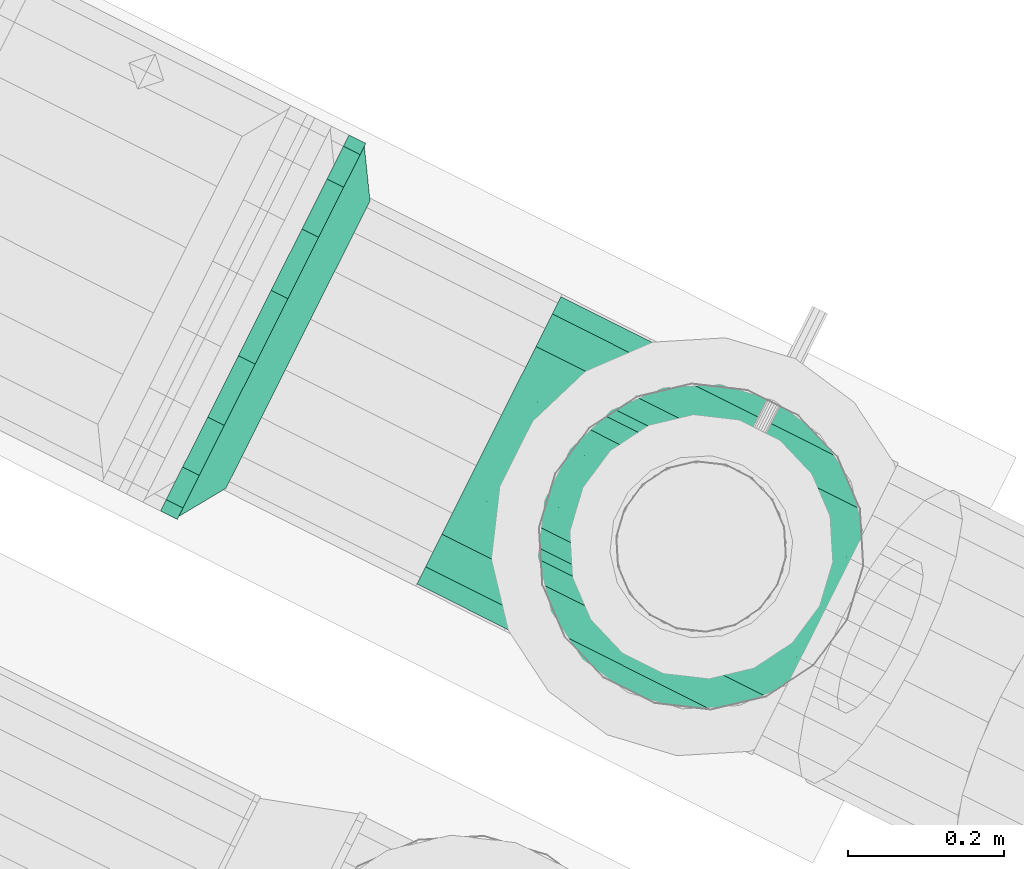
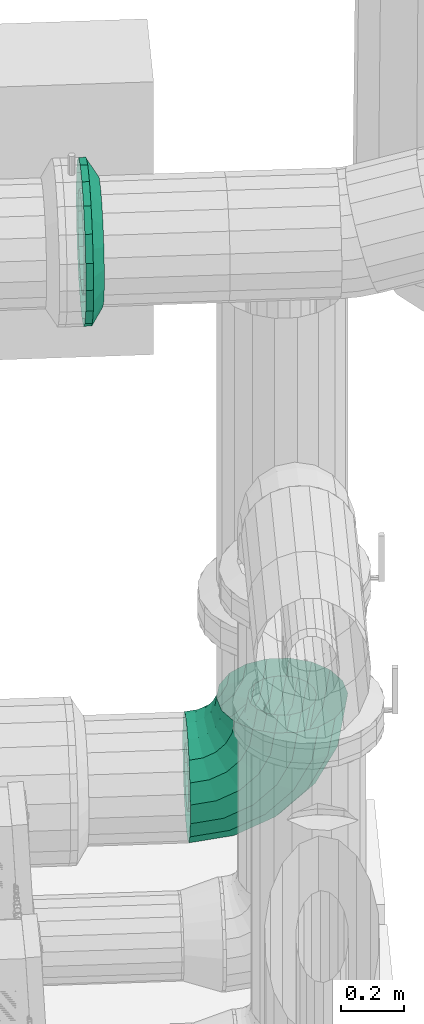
# One storey, part 140 of 152: 1 flow fitting, 1 flow segment.
"""IFC2X3 building model written with IfcOpenShell, lengths in metres."""

from ifc_helpers import new_model, si_unit, derived_unit, direction, frame, origin, place, context, subcontext, project, spatial, face_set, surface_model, source, transform, mapped, material, type_object, type_shapes, element, save


model = new_model("IFC2X3")

# Units and contexts
model_context = context("Model", 3, precision=5.2338327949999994e-05, world=origin(), true_north=direction((0.0, 1.0)))
body_context = subcontext(model_context, "Body", "Model", "MODEL_VIEW")
ifc_project = project(units=[si_unit("LENGTHUNIT", "METRE"), si_unit("AREAUNIT", "SQUARE_METRE"), si_unit("VOLUMEUNIT", "CUBIC_METRE"), si_unit("MASSUNIT", "GRAM", prefix="KILO"), si_unit("PLANEANGLEUNIT", "RADIAN"), derived_unit("THERMALTRANSMITTANCEUNIT", [(si_unit("MASSUNIT", "GRAM", prefix="KILO"), 1), (si_unit("THERMODYNAMICTEMPERATUREUNIT", "KELVIN"), -1), (si_unit("TIMEUNIT", "SECOND"), -3)])], contexts=[model_context])

# Site, building, storey
site_placement = place(None, frame((0.0, 0.0, 0.0), z_axis=(0.0, 0.0, 1.0), x_axis=(0.8939966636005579, -0.4480736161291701, 0.0)))
site = spatial("IfcSite", under=ifc_project, at=site_placement, Name="Default", CompositionType="ELEMENT")
building_placement = place(site_placement, origin())
building = spatial("IfcBuilding", under=site, at=building_placement, CompositionType="ELEMENT")
storey_placement = place(building_placement, frame((0.0, 0.0, 2.7499999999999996)))
storey = spatial("IfcBuildingStorey", under=building, at=storey_placement, Name="1. Obergeschoss", CompositionType="ELEMENT", Elevation=2.7499999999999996)

# Flow segment
ifc_material = material(Name="IfcSurfaceStyle #1741")
distribution_element_type_1 = type_object("IfcDistributionElementType", Name="Rohrbogen 5713:Rohrbogen 5713", material=ifc_material)
shared_shape_1 = source(origin(), body_context, "Body", "SurfaceModel", [
    surface_model("IfcFaceBasedSurfaceModel", [(11.420814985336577, 8.012208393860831, 3.3503200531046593), (11.420814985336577, 8.04967670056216, 3.3569267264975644), (11.546876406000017, 8.04967670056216, 3.376892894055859), (11.54891798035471, 8.012208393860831, 3.3706095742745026), (11.660598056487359, 8.049676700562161, 3.434836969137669), (11.664481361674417, 8.012208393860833, 3.429492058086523), (11.750848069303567, 8.049676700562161, 3.525086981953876), (11.756192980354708, 8.012208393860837, 3.521203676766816), (11.808792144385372, 8.049676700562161, 3.6388086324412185), (11.815075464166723, 8.012208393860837, 3.6367670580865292), (11.82875831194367, 8.049676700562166, 3.764870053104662), (11.835364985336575, 8.012208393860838, 3.764870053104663), (11.420814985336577, 8.082625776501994, 3.3759498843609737), (11.540997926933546, 8.082625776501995, 3.3949849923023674), (11.649416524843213, 8.082625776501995, 3.4502270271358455), (11.735458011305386, 8.082625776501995, 3.5362685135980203), (11.790700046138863, 8.082625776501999, 3.6446871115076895), (11.809735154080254, 8.082625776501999, 3.764870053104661), (11.420814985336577, 8.107081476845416, 3.4050950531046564), (11.531991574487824, 8.10708147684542, 3.422703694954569), (11.6322854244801, 8.10708147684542, 3.473805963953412), (11.71187907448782, 8.107081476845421, 3.553399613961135), (11.762981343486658, 8.107081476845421, 3.653693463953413), (11.780589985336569, 8.107081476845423, 3.7648700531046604), (11.420814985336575, 8.12009408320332, 3.4408468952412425), (11.520943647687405, 8.120094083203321, 3.456705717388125), (11.611271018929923, 8.120094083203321, 3.50272981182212), (11.68295522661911, 8.120094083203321, 3.574414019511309), (11.728979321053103, 8.120094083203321, 3.664741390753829), (11.744838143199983, 8.120094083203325, 3.7648700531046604), (11.420814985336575, 8.120094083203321, 3.4788932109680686), (11.509186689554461, 8.120094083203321, 3.4928899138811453), (11.588907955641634, 8.120094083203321, 3.533509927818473), (11.652175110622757, 8.120094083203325, 3.5967770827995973), (11.692795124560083, 8.120094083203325, 3.676498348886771), (11.706791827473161, 8.120094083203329, 3.764870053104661), (11.420814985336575, 8.107081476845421, 3.5146450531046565), (11.498138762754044, 8.107081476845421, 3.526891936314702), (11.567893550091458, 8.107081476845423, 3.5624337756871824), (11.623251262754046, 8.107081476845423, 3.6177914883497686), (11.658793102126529, 8.107081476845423, 3.687546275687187), (11.671039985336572, 8.107081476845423, 3.7648700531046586), (11.420814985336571, 8.082625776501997, 3.543790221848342), (11.48913241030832, 8.082625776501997, 3.5546106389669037), (11.550762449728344, 8.082625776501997, 3.586012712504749), (11.599672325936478, 8.082625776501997, 3.634922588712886), (11.631074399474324, 8.082625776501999, 3.69655262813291), (11.641894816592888, 8.082625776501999, 3.7648700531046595), (11.420814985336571, 8.049676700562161, 3.5628133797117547), (11.483253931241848, 8.049676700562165, 3.5727027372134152), (11.5395809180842, 8.049676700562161, 3.601402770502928), (11.584282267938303, 8.049676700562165, 3.646104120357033), (11.612982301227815, 8.049676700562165, 3.702431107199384), (11.622871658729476, 8.049676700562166, 3.7648700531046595), (11.420814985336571, 8.012208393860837, 3.569420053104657), (11.481212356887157, 8.012208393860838, 3.5789860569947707), (11.535697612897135, 8.012208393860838, 3.606747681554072), (11.578937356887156, 8.01220839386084, 3.649987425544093), (11.606698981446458, 8.012208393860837, 3.7044726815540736), (11.616264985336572, 8.01220839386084, 3.7648700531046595), (11.42081498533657, 7.974740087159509, 3.5628133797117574), (11.483253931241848, 7.974740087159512, 3.5727027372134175), (11.539580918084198, 7.974740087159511, 3.6014027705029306), (11.5842822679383, 7.974740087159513, 3.646104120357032), (11.612982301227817, 7.974740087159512, 3.7024311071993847), (11.62287165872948, 7.974740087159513, 3.76487005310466), (11.420814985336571, 7.941791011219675, 3.5437902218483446), (11.48913241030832, 7.941791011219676, 3.554610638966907), (11.550762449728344, 7.941791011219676, 3.5860127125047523), (11.599672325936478, 7.941791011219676, 3.63492258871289), (11.631074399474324, 7.94179101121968, 3.6965526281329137), (11.641894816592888, 7.94179101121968, 3.764870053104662), (11.420814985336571, 7.917335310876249, 3.514645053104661), (11.498138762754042, 7.917335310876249, 3.5268919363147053), (11.567893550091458, 7.91733531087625, 3.562433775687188), (11.623251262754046, 7.91733531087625, 3.617791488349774), (11.658793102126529, 7.917335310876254, 3.68754627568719), (11.671039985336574, 7.917335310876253, 3.7648700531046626), (11.420814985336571, 7.904322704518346, 3.478893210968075), (11.509186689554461, 7.904322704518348, 3.4928899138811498), (11.588907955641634, 7.904322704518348, 3.5335099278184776), (11.652175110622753, 7.904322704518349, 3.5967770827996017), (11.692795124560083, 7.904322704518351, 3.6764983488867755), (11.706791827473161, 7.904322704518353, 3.7648700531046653), (11.420814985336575, 7.904322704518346, 3.4408468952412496), (11.520943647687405, 7.904322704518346, 3.456705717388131), (11.611271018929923, 7.904322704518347, 3.502729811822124), (11.68295522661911, 7.904322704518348, 3.5744140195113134), (11.728979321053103, 7.904322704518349, 3.6647413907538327), (11.744838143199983, 7.904322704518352, 3.7648700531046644), (11.420814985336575, 7.917335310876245, 3.405095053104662), (11.531991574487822, 7.917335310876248, 3.422703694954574), (11.632285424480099, 7.917335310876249, 3.4738059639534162), (11.71187907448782, 7.917335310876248, 3.5533996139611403), (11.762981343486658, 7.91733531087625, 3.6536934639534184), (11.780589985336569, 7.917335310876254, 3.764870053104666), (11.420814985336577, 7.941791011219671, 3.375949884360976), (11.540997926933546, 7.941791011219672, 3.39498499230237), (11.649416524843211, 7.941791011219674, 3.4502270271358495), (11.735458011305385, 7.941791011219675, 3.5362685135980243), (11.790700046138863, 7.941791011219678, 3.6446871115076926), (11.809735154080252, 7.94179101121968, 3.7648700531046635), (11.420814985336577, 7.974740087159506, 3.3569267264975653), (11.546876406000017, 7.974740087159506, 3.3768928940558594), (11.660598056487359, 7.974740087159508, 3.4348369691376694), (11.750848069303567, 7.9747400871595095, 3.525086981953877), (11.808792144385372, 7.974740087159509, 3.638808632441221), (11.82875831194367, 7.974740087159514, 3.7648700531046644), (11.420814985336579, 8.012208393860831, 3.250320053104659), (11.420814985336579, 8.083878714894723, 3.26295746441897), (11.575914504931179, 8.083878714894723, 3.287522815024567), (11.579819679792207, 8.012208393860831, 3.2755039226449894), (11.71583180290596, 8.083878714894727, 3.3588142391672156), (11.723259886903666, 8.012208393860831, 3.348590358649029), (11.826870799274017, 8.083878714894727, 3.469853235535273), (11.837094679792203, 8.012208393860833, 3.4624251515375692), (11.898162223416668, 8.08387871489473, 3.609770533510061), (11.910181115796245, 8.012208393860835, 3.6058653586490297), (11.92272757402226, 8.083878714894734, 3.7648700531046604), (11.93536498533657, 8.01220839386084, 3.764870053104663), (11.420814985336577, 8.146904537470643, 3.299345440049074), (11.56467000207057, 8.146904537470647, 3.322129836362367), (11.694443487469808, 8.146904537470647, 3.3882527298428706), (11.797432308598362, 8.146904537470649, 3.4912415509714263), (11.863555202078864, 8.146904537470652, 3.6210150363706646), (11.886339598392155, 8.146904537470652, 3.7648700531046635), (11.420814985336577, 8.193684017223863, 3.3550950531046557), (11.547442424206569, 8.193684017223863, 3.3751508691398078), (11.661674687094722, 8.193684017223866, 3.433355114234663), (11.752329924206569, 8.193684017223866, 3.5240103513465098), (11.81053416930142, 8.193684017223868, 3.638242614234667), (11.830589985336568, 8.193684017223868, 3.7648700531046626), (11.420814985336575, 8.218574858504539, 3.423482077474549), (11.526309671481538, 8.21857485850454, 3.440190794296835), (11.621477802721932, 8.218574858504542, 3.4886813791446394), (11.69700365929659, 8.218574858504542, 3.564207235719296), (11.745494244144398, 8.218574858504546, 3.659375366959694), (11.762202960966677, 8.21857485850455, 3.7648700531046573), (11.420814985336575, 8.218574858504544, 3.4962580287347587), (11.50382066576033, 8.218574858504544, 3.5094048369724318), (11.578701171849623, 8.218574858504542, 3.5475583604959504), (11.638126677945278, 8.218574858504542, 3.606983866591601), (11.676280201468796, 8.218574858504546, 3.6818643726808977), (11.689427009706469, 8.218574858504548, 3.7648700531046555), (11.420814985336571, 8.193684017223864, 3.5646450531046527), (11.482687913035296, 8.193684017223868, 3.574444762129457), (11.538504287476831, 8.193684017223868, 3.6028846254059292), (11.582800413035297, 8.193684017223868, 3.6471807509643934), (11.611240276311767, 8.193684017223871, 3.7029971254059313), (11.62103998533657, 8.193684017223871, 3.7648700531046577), (11.42081498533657, 8.146904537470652, 3.62039466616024), (11.465460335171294, 8.146904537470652, 3.627465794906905), (11.505735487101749, 8.14690453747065, 3.647987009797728), (11.5376980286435, 8.146904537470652, 3.67994955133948), (11.558219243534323, 8.146904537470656, 3.720224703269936), (11.565290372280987, 8.146904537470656, 3.7648700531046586), (11.42081498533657, 8.08387871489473, 3.6567826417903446), (11.454215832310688, 8.083878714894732, 3.662072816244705), (11.484347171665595, 8.083878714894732, 3.677425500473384), (11.508259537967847, 8.083878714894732, 3.7013378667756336), (11.52361222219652, 8.083878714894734, 3.731469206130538), (11.528902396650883, 8.083878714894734, 3.764870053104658), (11.42081498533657, 8.012208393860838, 3.669420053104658), (11.45031065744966, 8.01220839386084, 3.674091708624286), (11.476919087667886, 8.012208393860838, 3.68764938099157), (11.498035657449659, 8.01220839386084, 3.70876595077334), (11.511593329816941, 8.01220839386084, 3.7353743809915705), (11.51626498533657, 8.01220839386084, 3.7648700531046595), (11.42081498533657, 7.940538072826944, 3.6567826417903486), (11.454215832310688, 7.940538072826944, 3.662072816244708), (11.484347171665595, 7.9405380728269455, 3.6774255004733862), (11.508259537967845, 7.940538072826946, 3.701337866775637), (11.52361222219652, 7.940538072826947, 3.7314692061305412), (11.528902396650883, 7.940538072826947, 3.764870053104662), (11.42081498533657, 7.877512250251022, 3.620394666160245), (11.465460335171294, 7.877512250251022, 3.6274657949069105), (11.505735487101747, 7.877512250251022, 3.647987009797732), (11.5376980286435, 7.877512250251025, 3.6799495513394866), (11.558219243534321, 7.8775122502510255, 3.7202247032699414), (11.565290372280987, 7.8775122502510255, 3.7648700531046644), (11.42081498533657, 7.830732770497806, 3.5646450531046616), (11.482687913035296, 7.830732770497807, 3.574444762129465), (11.538504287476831, 7.830732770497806, 3.602884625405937), (11.582800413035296, 7.830732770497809, 3.6471807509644), (11.611240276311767, 7.830732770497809, 3.702997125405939), (11.621039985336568, 7.83073277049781, 3.7648700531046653), (11.420814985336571, 7.805841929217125, 3.496258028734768), (11.503820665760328, 7.805841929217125, 3.50940483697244), (11.578701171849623, 7.805841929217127, 3.54755836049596), (11.638126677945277, 7.805841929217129, 3.60698386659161), (11.676280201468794, 7.80584192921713, 3.6818643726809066), (11.689427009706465, 7.805841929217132, 3.764870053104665), (11.420814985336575, 7.805841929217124, 3.423482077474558), (11.526309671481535, 7.805841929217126, 3.440190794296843), (11.621477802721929, 7.805841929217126, 3.4886813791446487), (11.697003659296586, 7.805841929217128, 3.5642072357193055), (11.745494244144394, 7.80584192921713, 3.6593753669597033), (11.762202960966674, 7.805841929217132, 3.7648700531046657), (11.420814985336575, 7.830732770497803, 3.3550950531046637), (11.547442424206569, 7.830732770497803, 3.375150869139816), (11.66167468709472, 7.8307327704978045, 3.4333551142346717), (11.752329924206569, 7.830732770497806, 3.5240103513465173), (11.810534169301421, 7.830732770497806, 3.6382426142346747), (11.830589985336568, 7.83073277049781, 3.7648700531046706), (11.420814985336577, 7.877512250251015, 3.2993454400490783), (11.56467000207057, 7.877512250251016, 3.322129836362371), (11.694443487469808, 7.8775122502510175, 3.3882527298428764), (11.797432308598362, 7.877512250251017, 3.491241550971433), (11.863555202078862, 7.877512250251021, 3.62101503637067), (11.886339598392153, 7.877512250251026, 3.7648700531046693), (11.420814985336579, 7.940538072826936, 3.262957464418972), (11.575914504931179, 7.940538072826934, 3.287522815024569), (11.71583180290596, 7.940538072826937, 3.358814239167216), (11.82687079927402, 7.940538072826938, 3.4698532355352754), (11.898162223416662, 7.940538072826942, 3.609770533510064), (11.92272757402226, 7.940538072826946, 3.7648700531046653)], [face_set([[[0, 1, 2, 3]], [[3, 2, 4, 5]], [[5, 4, 6, 7]], [[7, 6, 8, 9]], [[9, 8, 10, 11]], [[1, 12, 13, 2]], [[2, 13, 14, 4]], [[4, 14, 15, 6]], [[6, 15, 16, 8]], [[8, 16, 17, 10]], [[12, 18, 19, 13]], [[13, 19, 20, 14]], [[14, 20, 21, 15]], [[15, 21, 22, 16]], [[16, 22, 23, 17]], [[18, 24, 25, 19]], [[19, 25, 26, 20]], [[20, 26, 27, 21]], [[21, 27, 28, 22]], [[22, 28, 29, 23]], [[24, 30, 31, 25]], [[25, 31, 32, 26]], [[26, 32, 33, 27]], [[27, 33, 34, 28]], [[28, 34, 35, 29]], [[30, 36, 37, 31]], [[31, 37, 38, 32]], [[32, 38, 39, 33]], [[33, 39, 40, 34]], [[34, 40, 41, 35]], [[36, 42, 43, 37]], [[37, 43, 44, 38]], [[38, 44, 45, 39]], [[39, 45, 46, 40]], [[40, 46, 47, 41]], [[42, 48, 49, 43]], [[43, 49, 50, 44]], [[44, 50, 51, 45]], [[45, 51, 52, 46]], [[46, 52, 53, 47]], [[48, 54, 55, 49]], [[49, 55, 56, 50]], [[50, 56, 57, 51]], [[51, 57, 58, 52]], [[52, 58, 59, 53]], [[54, 60, 61, 55]], [[55, 61, 62, 56]], [[56, 62, 63, 57]], [[57, 63, 64, 58]], [[58, 64, 65, 59]], [[60, 66, 67, 61]], [[61, 67, 68, 62]], [[62, 68, 69, 63]], [[63, 69, 70, 64]], [[64, 70, 71, 65]], [[66, 72, 73, 67]], [[67, 73, 74, 68]], [[68, 74, 75, 69]], [[69, 75, 76, 70]], [[70, 76, 77, 71]], [[72, 78, 79, 73]], [[73, 79, 80, 74]], [[74, 80, 81, 75]], [[75, 81, 82, 76]], [[76, 82, 83, 77]], [[78, 84, 85, 79]], [[79, 85, 86, 80]], [[80, 86, 87, 81]], [[81, 87, 88, 82]], [[82, 88, 89, 83]], [[84, 90, 91, 85]], [[85, 91, 92, 86]], [[86, 92, 93, 87]], [[87, 93, 94, 88]], [[88, 94, 95, 89]], [[90, 96, 97, 91]], [[91, 97, 98, 92]], [[92, 98, 99, 93]], [[93, 99, 100, 94]], [[94, 100, 101, 95]], [[96, 102, 103, 97]], [[97, 103, 104, 98]], [[98, 104, 105, 99]], [[99, 105, 106, 100]], [[100, 106, 107, 101]], [[102, 0, 3, 103]], [[103, 3, 5, 104]], [[104, 5, 7, 105]], [[105, 7, 9, 106]], [[106, 9, 11, 107]], [[108, 109, 110, 111]], [[111, 110, 112, 113]], [[113, 112, 114, 115]], [[115, 114, 116, 117]], [[117, 116, 118, 119]], [[109, 120, 121, 110]], [[110, 121, 122, 112]], [[112, 122, 123, 114]], [[114, 123, 124, 116]], [[116, 124, 125, 118]], [[120, 126, 127, 121]], [[121, 127, 128, 122]], [[122, 128, 129, 123]], [[123, 129, 130, 124]], [[124, 130, 131, 125]], [[126, 132, 133, 127]], [[127, 133, 134, 128]], [[128, 134, 135, 129]], [[129, 135, 136, 130]], [[130, 136, 137, 131]], [[132, 138, 139, 133]], [[133, 139, 140, 134]], [[134, 140, 141, 135]], [[135, 141, 142, 136]], [[136, 142, 143, 137]], [[138, 144, 145, 139]], [[139, 145, 146, 140]], [[140, 146, 147, 141]], [[141, 147, 148, 142]], [[142, 148, 149, 143]], [[144, 150, 151, 145]], [[145, 151, 152, 146]], [[146, 152, 153, 147]], [[147, 153, 154, 148]], [[148, 154, 155, 149]], [[150, 156, 157, 151]], [[151, 157, 158, 152]], [[152, 158, 159, 153]], [[153, 159, 160, 154]], [[154, 160, 161, 155]], [[156, 162, 163, 157]], [[157, 163, 164, 158]], [[158, 164, 165, 159]], [[159, 165, 166, 160]], [[160, 166, 167, 161]], [[162, 168, 169, 163]], [[163, 169, 170, 164]], [[164, 170, 171, 165]], [[165, 171, 172, 166]], [[166, 172, 173, 167]], [[168, 174, 175, 169]], [[169, 175, 176, 170]], [[170, 176, 177, 171]], [[171, 177, 178, 172]], [[172, 178, 179, 173]], [[174, 180, 181, 175]], [[175, 181, 182, 176]], [[176, 182, 183, 177]], [[177, 183, 184, 178]], [[178, 184, 185, 179]], [[180, 186, 187, 181]], [[181, 187, 188, 182]], [[182, 188, 189, 183]], [[183, 189, 190, 184]], [[184, 190, 191, 185]], [[186, 192, 193, 187]], [[187, 193, 194, 188]], [[188, 194, 195, 189]], [[189, 195, 196, 190]], [[190, 196, 197, 191]], [[192, 198, 199, 193]], [[193, 199, 200, 194]], [[194, 200, 201, 195]], [[195, 201, 202, 196]], [[196, 202, 203, 197]], [[198, 204, 205, 199]], [[199, 205, 206, 200]], [[200, 206, 207, 201]], [[201, 207, 208, 202]], [[202, 208, 209, 203]], [[204, 210, 211, 205]], [[205, 211, 212, 206]], [[206, 212, 213, 207]], [[207, 213, 214, 208]], [[208, 214, 215, 209]], [[210, 108, 111, 211]], [[211, 111, 113, 212]], [[212, 113, 115, 213]], [[213, 115, 117, 214]], [[214, 117, 119, 215]]])]),
])
type_shapes(distribution_element_type_1, [shared_shape_1])
flow_segment_placement = place(storey_placement, frame((0.0, 0.0, -2.7499999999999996)))
element("IfcFlowSegment", 1, at=flow_segment_placement, inside=storey, type_object=distribution_element_type_1, material=ifc_material, Name="Rohrbogen", ObjectType="Rohrbogen", context=body_context, shape_type="MappedRepresentation", body=[
    mapped(shared_shape_1, transform((0.0, 0.0, 0.0), scale=1.0)),
])

# Flow fitting
distribution_element_type_2 = type_object("IfcDistributionElementType", Name="Flansch 5742:Flansch 5742", material=ifc_material)
shared_shape_2 = source(origin(), body_context, "Body", "SurfaceModel", [
    surface_model("IfcFaceBasedSurfaceModel", [(11.146653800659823, 8.01220839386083, 5.444406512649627), (11.146653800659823, 7.974740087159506, 5.4510131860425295), (11.108653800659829, 7.972021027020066, 5.4435426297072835), (11.108653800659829, 8.012208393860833, 5.436456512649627), (11.146653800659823, 7.94179101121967, 5.470036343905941), (11.108653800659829, 7.936680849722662, 5.463946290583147), (11.146653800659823, 7.917335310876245, 5.499181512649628), (11.108653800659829, 7.91045040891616, 5.495206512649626), (11.146653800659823, 7.904322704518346, 5.534933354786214), (11.108653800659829, 7.896493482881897, 5.533552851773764), (11.146653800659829, 7.904322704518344, 5.57297967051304), (11.108653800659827, 7.896493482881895, 5.574360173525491), (11.146653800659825, 7.917335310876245, 5.608731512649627), (11.108653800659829, 7.9104504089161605, 5.612706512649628), (11.146653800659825, 7.94179101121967, 5.637876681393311), (11.108653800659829, 7.936680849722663, 5.643966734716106), (11.146653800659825, 7.974740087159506, 5.656899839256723), (11.10865380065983, 7.972021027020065, 5.6643703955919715), (11.146653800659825, 8.01220839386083, 5.663506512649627), (11.108653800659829, 8.012208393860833, 5.671456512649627), (11.146653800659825, 8.04967670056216, 5.656899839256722), (11.10865380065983, 8.052395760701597, 5.6643703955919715), (11.146653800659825, 8.082625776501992, 5.637876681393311), (11.10865380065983, 8.087735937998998, 5.643966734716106), (11.146653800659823, 8.107081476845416, 5.608731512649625), (11.108653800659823, 8.113966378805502, 5.612706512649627), (11.146653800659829, 8.120094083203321, 5.57297967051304), (11.108653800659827, 8.127923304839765, 5.574360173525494), (11.146653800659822, 8.120094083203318, 5.534933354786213), (11.108653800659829, 8.127923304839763, 5.533552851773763), (11.146653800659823, 8.107081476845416, 5.499181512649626), (11.108653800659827, 8.1139663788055, 5.4952065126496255), (11.146653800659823, 8.082625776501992, 5.470036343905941), (11.10865380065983, 8.087735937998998, 5.463946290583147), (11.146653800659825, 8.049676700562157, 5.4510131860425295), (11.108653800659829, 8.052395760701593, 5.4435426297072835), (11.108653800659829, 7.842208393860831, 5.553956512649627), (11.108653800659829, 7.852460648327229, 5.612099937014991), (11.084653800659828, 7.852460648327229, 5.612099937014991), (11.084653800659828, 7.842208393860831, 5.553956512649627), (11.108653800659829, 7.881980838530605, 5.663230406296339), (11.084653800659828, 7.881980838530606, 5.663230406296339), (11.108653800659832, 7.927208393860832, 5.701180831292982), (11.08465380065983, 7.927208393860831, 5.701180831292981), (11.10865380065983, 7.982688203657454, 5.721373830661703), (11.08465380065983, 7.982688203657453, 5.721373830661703), (11.10865380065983, 8.04172858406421, 5.721373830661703), (11.08465380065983, 8.041728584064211, 5.721373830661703), (11.10865380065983, 8.097208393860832, 5.701180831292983), (11.08465380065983, 8.097208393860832, 5.701180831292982), (11.108653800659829, 8.142435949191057, 5.663230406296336), (11.08465380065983, 8.142435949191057, 5.663230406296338), (11.108653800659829, 8.171956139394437, 5.61209993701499), (11.084653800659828, 8.171956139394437, 5.61209993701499), (11.108653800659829, 8.18220839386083, 5.553956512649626), (11.084653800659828, 8.18220839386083, 5.553956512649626), (11.108653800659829, 8.171956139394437, 5.495813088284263), (11.084653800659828, 8.171956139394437, 5.495813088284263), (11.108653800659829, 8.142435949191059, 5.444682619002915), (11.08465380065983, 8.142435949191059, 5.444682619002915), (11.108653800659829, 8.097208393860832, 5.406732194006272), (11.084653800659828, 8.09720839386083, 5.406732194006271), (11.108653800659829, 8.041728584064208, 5.386539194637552), (11.08465380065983, 8.04172858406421, 5.386539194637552), (11.108653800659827, 7.982688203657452, 5.386539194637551), (11.084653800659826, 7.982688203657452, 5.386539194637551), (11.108653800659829, 7.927208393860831, 5.406732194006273), (11.08465380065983, 7.92720839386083, 5.406732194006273), (11.108653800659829, 7.881980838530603, 5.444682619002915), (11.084653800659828, 7.881980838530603, 5.444682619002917), (11.108653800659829, 7.85246064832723, 5.495813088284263), (11.084653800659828, 7.85246064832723, 5.495813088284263), (11.108653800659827, 8.012208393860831, 5.553956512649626), (11.146653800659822, 8.01220839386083, 5.344406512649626), (11.146653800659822, 7.9405380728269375, 5.357043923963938), (11.108653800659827, 7.919862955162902, 5.300239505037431), (11.108653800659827, 8.012208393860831, 5.2839565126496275), (11.146653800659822, 7.8775122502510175, 5.393431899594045), (11.108653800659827, 7.838655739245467, 5.347124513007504), (11.146653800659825, 7.830732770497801, 5.449181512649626), (11.10865380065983, 7.778381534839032, 5.4189565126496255), (11.146653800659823, 7.805841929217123, 5.517568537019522), (11.108653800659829, 7.746310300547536, 5.507071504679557), (11.146653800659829, 7.805841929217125, 5.590344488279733), (11.108653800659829, 7.746310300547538, 5.600841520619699), (11.146653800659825, 7.830732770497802, 5.658731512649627), (11.108653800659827, 7.778381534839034, 5.688956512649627), (11.146653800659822, 7.87751225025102, 5.714481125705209), (11.108653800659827, 7.838655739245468, 5.760788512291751), (11.146653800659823, 7.9405380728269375, 5.750869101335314), (11.10865380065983, 7.9198629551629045, 5.8076735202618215), (11.146653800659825, 8.012208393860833, 5.763506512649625), (11.10865380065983, 8.012208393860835, 5.823956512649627), (11.146653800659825, 8.083878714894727, 5.750869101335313), (11.10865380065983, 8.104553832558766, 5.8076735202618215), (11.146653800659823, 8.146904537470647, 5.714481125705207), (11.108653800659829, 8.185761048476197, 5.76078851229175), (11.146653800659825, 8.19368401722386, 5.658731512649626), (11.108653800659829, 8.246035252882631, 5.688956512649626), (11.146653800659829, 8.21857485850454, 5.59034448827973), (11.10865380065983, 8.278106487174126, 5.6008415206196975), (11.146653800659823, 8.218574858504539, 5.517568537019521), (11.108653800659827, 8.278106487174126, 5.507071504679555), (11.146653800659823, 8.19368401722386, 5.449181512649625), (11.108653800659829, 8.24603525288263, 5.418956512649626), (11.146653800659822, 8.146904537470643, 5.3934318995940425), (11.108653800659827, 8.185761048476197, 5.347124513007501), (11.146653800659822, 8.083878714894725, 5.357043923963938), (11.108653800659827, 8.104553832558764, 5.300239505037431), (11.108653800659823, 7.7422083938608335, 5.553956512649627), (11.108653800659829, 7.758491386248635, 5.646301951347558), (11.08465380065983, 7.758491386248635, 5.646301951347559), (11.084653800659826, 7.7422083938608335, 5.553956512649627), (11.108653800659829, 7.805376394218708, 5.727509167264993), (11.084653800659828, 7.805376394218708, 5.727509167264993), (11.108653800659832, 7.877208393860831, 5.787783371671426), (11.08465380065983, 7.877208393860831, 5.787783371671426), (11.108653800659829, 7.965323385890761, 5.819854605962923), (11.08465380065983, 7.965323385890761, 5.819854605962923), (11.108653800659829, 8.059093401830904, 5.819854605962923), (11.08465380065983, 8.059093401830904, 5.819854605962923), (11.108653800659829, 8.147208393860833, 5.787783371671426), (11.084653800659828, 8.147208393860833, 5.787783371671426), (11.108653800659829, 8.219040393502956, 5.7275091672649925), (11.084653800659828, 8.219040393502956, 5.7275091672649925), (11.108653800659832, 8.265925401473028, 5.646301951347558), (11.08465380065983, 8.265925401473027, 5.6463019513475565), (11.108653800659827, 8.282208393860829, 5.553956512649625), (11.084653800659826, 8.282208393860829, 5.553956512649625), (11.108653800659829, 8.265925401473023, 5.461611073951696), (11.084653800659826, 8.265925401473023, 5.461611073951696), (11.108653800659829, 8.219040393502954, 5.380403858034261), (11.084653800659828, 8.219040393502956, 5.380403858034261), (11.108653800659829, 8.14720839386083, 5.320129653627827), (11.084653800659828, 8.14720839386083, 5.320129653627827), (11.108653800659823, 8.059093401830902, 5.288058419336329), (11.084653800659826, 8.059093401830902, 5.288058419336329), (11.108653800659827, 7.965323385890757, 5.28805841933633), (11.084653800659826, 7.965323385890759, 5.288058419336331), (11.108653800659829, 7.87720839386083, 5.320129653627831), (11.08465380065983, 7.877208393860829, 5.320129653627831), (11.108653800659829, 7.805376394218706, 5.3804038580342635), (11.084653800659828, 7.8053763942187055, 5.380403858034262), (11.108653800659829, 7.758491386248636, 5.461611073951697), (11.084653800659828, 7.758491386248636, 5.461611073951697)], [face_set([[[0, 1, 2, 3]], [[1, 4, 5, 2]], [[4, 6, 7, 5]], [[6, 8, 9, 7]], [[8, 10, 11, 9]], [[10, 12, 13, 11]], [[12, 14, 15, 13]], [[14, 16, 17, 15]], [[16, 18, 19, 17]], [[18, 20, 21, 19]], [[20, 22, 23, 21]], [[22, 24, 25, 23]], [[24, 26, 27, 25]], [[26, 28, 29, 27]], [[28, 30, 31, 29]], [[30, 32, 33, 31]], [[32, 34, 35, 33]], [[34, 0, 3, 35]], [[36, 37, 38, 39]], [[37, 40, 41, 38]], [[40, 42, 43, 41]], [[42, 44, 45, 43]], [[44, 46, 47, 45]], [[46, 48, 49, 47]], [[48, 50, 51, 49]], [[50, 52, 53, 51]], [[52, 54, 55, 53]], [[54, 56, 57, 55]], [[56, 58, 59, 57]], [[58, 60, 61, 59]], [[60, 62, 63, 61]], [[62, 64, 65, 63]], [[64, 66, 67, 65]], [[66, 68, 69, 67]], [[68, 70, 71, 69]], [[70, 36, 39, 71]], [[72, 37, 36]], [[72, 40, 37]], [[72, 42, 40]], [[72, 44, 42]], [[72, 46, 44]], [[72, 48, 46]], [[72, 50, 48]], [[72, 52, 50]], [[72, 54, 52]], [[72, 56, 54]], [[72, 58, 56]], [[72, 60, 58]], [[72, 62, 60]], [[72, 64, 62]], [[72, 66, 64]], [[72, 68, 66]], [[72, 70, 68]], [[72, 36, 70]], [[73, 74, 75, 76]], [[74, 77, 78, 75]], [[77, 79, 80, 78]], [[79, 81, 82, 80]], [[81, 83, 84, 82]], [[83, 85, 86, 84]], [[85, 87, 88, 86]], [[87, 89, 90, 88]], [[89, 91, 92, 90]], [[91, 93, 94, 92]], [[93, 95, 96, 94]], [[95, 97, 98, 96]], [[97, 99, 100, 98]], [[99, 101, 102, 100]], [[101, 103, 104, 102]], [[103, 105, 106, 104]], [[105, 107, 108, 106]], [[107, 73, 76, 108]], [[109, 110, 111, 112]], [[110, 113, 114, 111]], [[113, 115, 116, 114]], [[115, 117, 118, 116]], [[117, 119, 120, 118]], [[119, 121, 122, 120]], [[121, 123, 124, 122]], [[123, 125, 126, 124]], [[125, 127, 128, 126]], [[127, 129, 130, 128]], [[129, 131, 132, 130]], [[131, 133, 134, 132]], [[133, 135, 136, 134]], [[135, 137, 138, 136]], [[137, 139, 140, 138]], [[139, 141, 142, 140]], [[141, 143, 144, 142]], [[143, 109, 112, 144]]])]),
])
type_shapes(distribution_element_type_2, [shared_shape_2])
flow_fitting_placement = place(storey_placement, frame((0.0, 0.0, -2.7499999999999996)))
element("IfcFlowFitting", 2, at=flow_fitting_placement, inside=storey, type_object=distribution_element_type_2, material=ifc_material, Name="Flansch", ObjectType="Flansch", context=body_context, shape_type="MappedRepresentation", body=[
    mapped(shared_shape_2, transform((0.0, 0.0, 0.0), scale=1.0)),
])

save(model, "model.ifc")
